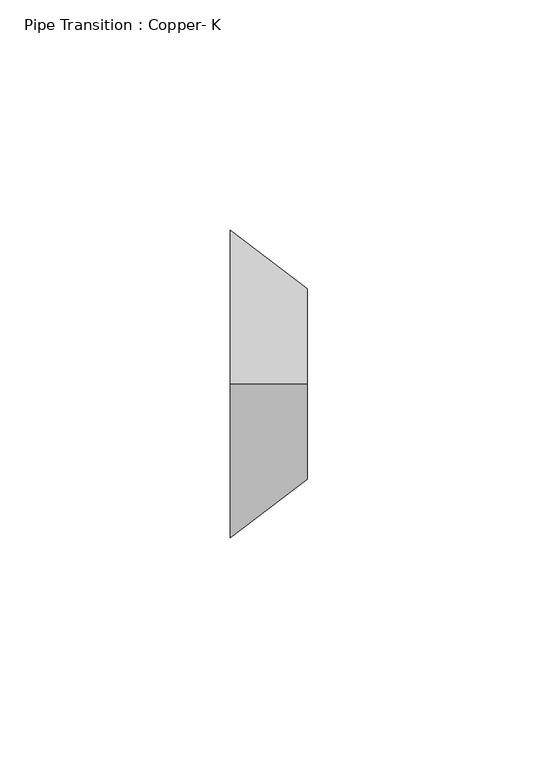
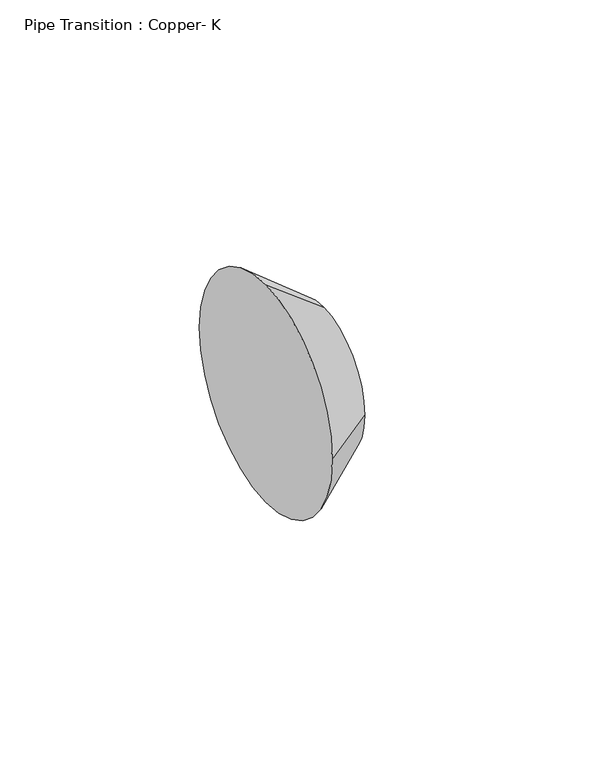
"""IFC4 building model written with IfcOpenShell, lengths in millimetres: pipe fitting geometry, Pipe Transition : Copper- K."""

from ifc_helpers import new_model, si_unit, frame, origin, place, context, project, spatial, polyline, circle_curve, source, transform, mapped, element, save
from ifc_brep_helpers import plane_surface, revolved_surface, advanced_brep


def pipe_transition_copper_k_0fbfc8fd(model_context):
    return source(origin(), model_context, "Body", "AdvancedBrep", [
        advanced_brep(
        [(16.66875, 0.0, 20.6375), (16.66875, -20.6375, 0.0), (16.66875, 0.0, -20.6375), (16.66875, 20.6375, 0.0), (0.0, 0.0, 33.3375), (0.0, 33.3375, 0.0), (0.0, 0.0, -33.3375), (0.0, -33.3375, 0.0)],
        [
            (0, 1, circle_curve(frame((16.66875, 0.0, 0.0), z_axis=(1.0, 0.0, 0.0), x_axis=(0.0, -1.0, 0.0)), 20.6375)),
            (1, 2, circle_curve(frame((16.66875, 0.0, 0.0), z_axis=(1.0, 0.0, 0.0), x_axis=(0.0, 0.0, -1.0)), 20.6375)),
            (2, 3, circle_curve(frame((16.66875, 0.0, 0.0), z_axis=(1.0, 0.0, 0.0), x_axis=(0.0, 1.0, 0.0)), 20.6375)),
            (3, 0, circle_curve(frame((16.66875, 0.0, 0.0), z_axis=(1.0, 0.0, 0.0), x_axis=(0.0, 0.0, 1.0)), 20.6375)),
            (4, 5, circle_curve(frame((0.0, 0.0, 0.0), z_axis=(-1.0, 0.0, 0.0), x_axis=(0.0, 0.0, 1.0)), 33.3375)),
            (5, 6, circle_curve(frame((0.0, 0.0, 0.0), z_axis=(-1.0, 0.0, 0.0), x_axis=(0.0, 1.0, 0.0)), 33.3375)),
            (6, 7, circle_curve(frame((0.0, 0.0, 0.0), z_axis=(-1.0, 0.0, 0.0), x_axis=(0.0, 0.0, -1.0)), 33.3375)),
            (7, 4, circle_curve(frame((0.0, 0.0, 0.0), z_axis=(-1.0, 0.0, 0.0), x_axis=(0.0, -1.0, 0.0)), 33.3375)),
            (4, 0),
            (3, 5),
            (2, 6),
            (1, 7),
        ],
        [
            plane_surface(frame((16.66875, 0.0, 0.0), z_axis=(1.0, 0.0, 0.0), x_axis=(0.0, 1.0, 0.0))),
            plane_surface(frame((0.0, 0.0, 0.0), z_axis=(-1.0, 0.0, 0.0), x_axis=(0.0, 1.0, 0.0))),
            revolved_surface(polyline([(16.66875, 0.0, 20.637500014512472), (0.0, 0.0, 33.3375)]), (43.7554688, 0.0, 0.0), (-1.0, 0.0, 0.0)),
            revolved_surface(polyline([(16.66875, 20.637500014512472, 0.0), (0.0, 33.3375, 0.0)]), (43.7554688, 0.0, 0.0), (-1.0, 0.0, 0.0)),
            revolved_surface(polyline([(16.66875, 0.0, -20.637500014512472), (0.0, 0.0, -33.3375)]), (43.7554688, 0.0, 0.0), (-1.0, 0.0, 0.0)),
            revolved_surface(polyline([(16.66875, -20.637500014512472, 0.0), (0.0, -33.3375, 0.0)]), (43.7554688, 0.0, 0.0), (-1.0, 0.0, 0.0)),
        ],
        [
            (0, [[1, 2, 3, 4]]),
            (1, [[5, 6, 7, 8]]),
            (2, [[9, -4, 10, -5]]),
            (3, [[-10, -3, 11, -6]]),
            (4, [[-11, -2, 12, -7]]),
            (5, [[-12, -1, -9, -8]]),
        ],
    ),
        advanced_brep(
        [(16.66875, 0.0, 20.6375), (16.66875, -20.6375, 0.0), (16.66875, 0.0, -20.6375), (16.66875, 20.6375, 0.0), (0.0, 0.0, 33.3375), (0.0, 33.3375, 0.0), (0.0, 0.0, -33.3375), (0.0, -33.3375, 0.0)],
        [
            (0, 1, circle_curve(frame((16.66875, 0.0, 0.0), z_axis=(1.0, 0.0, 0.0), x_axis=(0.0, -1.0, 0.0)), 20.6375)),
            (1, 2, circle_curve(frame((16.66875, 0.0, 0.0), z_axis=(1.0, 0.0, 0.0), x_axis=(0.0, 0.0, -1.0)), 20.6375)),
            (2, 3, circle_curve(frame((16.66875, 0.0, 0.0), z_axis=(1.0, 0.0, 0.0), x_axis=(0.0, 1.0, 0.0)), 20.6375)),
            (3, 0, circle_curve(frame((16.66875, 0.0, 0.0), z_axis=(1.0, 0.0, 0.0), x_axis=(0.0, 0.0, 1.0)), 20.6375)),
            (4, 5, circle_curve(frame((0.0, 0.0, 0.0), z_axis=(-1.0, 0.0, 0.0), x_axis=(0.0, 0.0, 1.0)), 33.3375)),
            (5, 6, circle_curve(frame((0.0, 0.0, 0.0), z_axis=(-1.0, 0.0, 0.0), x_axis=(0.0, 1.0, 0.0)), 33.3375)),
            (6, 7, circle_curve(frame((0.0, 0.0, 0.0), z_axis=(-1.0, 0.0, 0.0), x_axis=(0.0, 0.0, -1.0)), 33.3375)),
            (7, 4, circle_curve(frame((0.0, 0.0, 0.0), z_axis=(-1.0, 0.0, 0.0), x_axis=(0.0, -1.0, 0.0)), 33.3375)),
            (4, 0),
            (3, 5),
            (2, 6),
            (1, 7),
        ],
        [
            plane_surface(frame((16.66875, 0.0, 0.0), z_axis=(1.0, 0.0, 0.0), x_axis=(0.0, 1.0, 0.0))),
            plane_surface(frame((0.0, 0.0, 0.0), z_axis=(-1.0, 0.0, 0.0), x_axis=(0.0, 1.0, 0.0))),
            revolved_surface(polyline([(16.66875, 0.0, 20.637500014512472), (0.0, 0.0, 33.3375)]), (43.7554688, 0.0, 0.0), (-1.0, 0.0, 0.0)),
            revolved_surface(polyline([(16.66875, 20.637500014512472, 0.0), (0.0, 33.3375, 0.0)]), (43.7554688, 0.0, 0.0), (-1.0, 0.0, 0.0)),
            revolved_surface(polyline([(16.668750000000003, 0.0, -20.637499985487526), (0.0, 0.0, -33.3375)]), (43.7554687, 0.0, 0.0), (-1.0, 0.0, 0.0)),
            revolved_surface(polyline([(16.668750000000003, -20.637499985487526, 0.0), (0.0, -33.3375, 0.0)]), (43.7554687, 0.0, 0.0), (-1.0, 0.0, 0.0)),
        ],
        [
            (0, [[1, 2, 3, 4]]),
            (1, [[5, 6, 7, 8]]),
            (2, [[9, -4, 10, -5]]),
            (3, [[-10, -3, 11, -6]]),
            (4, [[-11, -2, 12, -7]]),
            (5, [[-12, -1, -9, -8]]),
        ],
    ),
    ])


if __name__ == "__main__":
    model = new_model("IFC4")
    model_context = context("Model", 3, world=origin())
    ifc_project = project(units=[si_unit("LENGTHUNIT", "METRE", prefix="MILLI")], contexts=[model_context])
    site = spatial("IfcSite", under=ifc_project)
    building = spatial("IfcBuilding", under=site)
    placement = place(None, origin())
    pipe_transition_copper_k_shape = pipe_transition_copper_k_0fbfc8fd(model_context)
    element("IfcPipeFitting", 1, ObjectType="Pipe Transition : Copper- K", at=placement, inside=building, context=model_context, shape_type="MappedRepresentation", body=[
        mapped(pipe_transition_copper_k_shape, transform((0.0, 0.0, 0.0), x_axis=(1.0, 0.0, 0.0), y_axis=(0.0, 1.0, 0.0), z_axis=(0.0, 0.0, 1.0))),
    ])
    save(model, "model.ifc")
